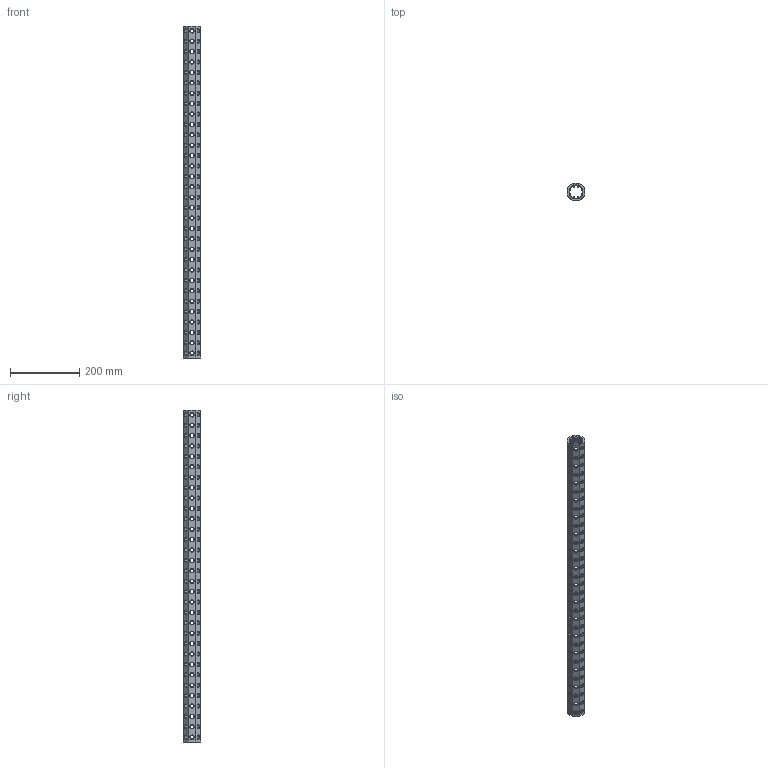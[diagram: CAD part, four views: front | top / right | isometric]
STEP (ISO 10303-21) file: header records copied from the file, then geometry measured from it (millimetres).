
FILE_DESCRIPTION(('CATIA V5 STEP Exchange'),'2;1');
FILE_NAME('U:\Room\唐宝山\EGT002\46-01-010261-01-EGT002-958.stp','2021-08-24T01:11:54+00:00',('none'),('none'),'CATIA Version 5 Release 21 GA (IN-10)','CATIA V5 STEP AP203','none');
FILE_SCHEMA(('CONFIG_CONTROL_DESIGN'));
Products named in the file (1): 46-01-010261-01-EGT002-958
Bounding box: 50 x 50 x 958 mm (x, y, z)
Volume: 682431.1 mm3; surface area: 329948.2 mm2
Topology: 1 solids, 1 shells, 1364 faces, 3766 edges, 2340 vertices
Faces by surface type: cone 768, cylinder 570, plane 26
Entity records: 55015 total; most frequent: CARTESIAN_POINT 21830, ORIENTED_EDGE 7532, DIRECTION 5370, EDGE_CURVE 3766, AXIS2_PLACEMENT_3D 2533, VERTEX_POINT 2340, EDGE_LOOP 1814, VECTOR 1474
